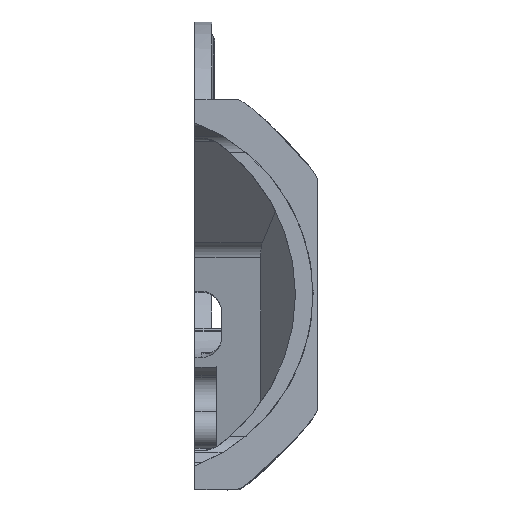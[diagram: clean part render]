
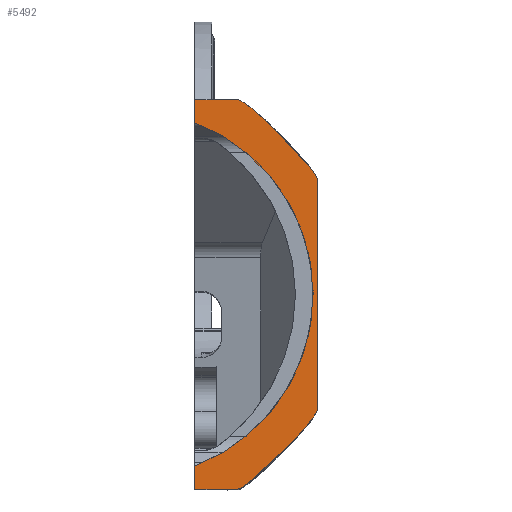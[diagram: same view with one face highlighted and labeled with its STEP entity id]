
A CAD part, top view. The second image highlights one B-rep face of the part: STEP entity #5492.
In plain terms, the highlighted planar face has unit normal (0, 0, 1).
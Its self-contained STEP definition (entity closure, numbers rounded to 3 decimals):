
#325=DIRECTION('',(0.,-1.,0.));
#326=VECTOR('',#325,6.84);
#327=CARTESIAN_POINT('',(145.5,-55.16,-240.5));
#328=LINE('',#327,#326);
#366=DIRECTION('',(0.,-1.,0.));
#367=VECTOR('',#366,6.84);
#368=CARTESIAN_POINT('',(145.5,54.,-240.5));
#369=LINE('',#368,#367);
#1547=CARTESIAN_POINT('',(126.,-4.,-240.5));
#1548=DIRECTION('',(0.,0.,1.));
#1549=DIRECTION('',(0.356,-0.934,0.));
#1550=AXIS2_PLACEMENT_3D('',#1547,#1548,#1549);
#1552=CARTESIAN_POINT('',(126.,-4.,-240.5));
#1553=DIRECTION('',(0.,0.,1.));
#1554=DIRECTION('',(1.,0.,0.));
#1555=AXIS2_PLACEMENT_3D('',#1552,#1553,#1554);
#1557=CARTESIAN_POINT('',(158.3,54.,-240.5));
#1558=CARTESIAN_POINT('',(158.519,54.,-240.5));
#1559=CARTESIAN_POINT('',(159.245,53.759,-240.5));
#1560=CARTESIAN_POINT('',(161.713,52.087,-240.5));
#1561=CARTESIAN_POINT('',(165.92,48.563,-240.5));
#1562=CARTESIAN_POINT('',(171.382,43.382,-240.5));
#1563=CARTESIAN_POINT('',(176.563,37.92,-240.5));
#1564=CARTESIAN_POINT('',(180.087,33.713,-240.5));
#1565=CARTESIAN_POINT('',(181.759,31.245,-240.5));
#1566=CARTESIAN_POINT('',(182.,30.519,-240.5));
#1567=CARTESIAN_POINT('',(182.,30.3,-240.5));
#1569=CARTESIAN_POINT('',(182.,-38.3,-240.5));
#1570=CARTESIAN_POINT('',(182.,-38.519,-240.5));
#1571=CARTESIAN_POINT('',(181.759,-39.245,-240.5));
#1572=CARTESIAN_POINT('',(180.087,-41.713,-240.5));
#1573=CARTESIAN_POINT('',(176.563,-45.92,-240.5));
#1574=CARTESIAN_POINT('',(171.382,-51.382,-240.5));
#1575=CARTESIAN_POINT('',(165.92,-56.563,-240.5));
#1576=CARTESIAN_POINT('',(161.713,-60.087,-240.5));
#1577=CARTESIAN_POINT('',(159.245,-61.759,-240.5));
#1578=CARTESIAN_POINT('',(158.519,-62.,-240.5));
#1579=CARTESIAN_POINT('',(158.3,-62.,-240.5));
#1581=DIRECTION('',(-1.,0.,0.));
#1582=VECTOR('',#1581,12.8);
#1583=CARTESIAN_POINT('',(158.3,-62.,-240.5));
#1584=LINE('',#1583,#1582);
#1585=DIRECTION('',(-1.,0.,0.));
#1586=VECTOR('',#1585,12.8);
#1587=CARTESIAN_POINT('',(158.3,54.,-240.5));
#1588=LINE('',#1587,#1586);
#1647=DIRECTION('',(0.,1.,0.));
#1648=VECTOR('',#1647,68.6);
#1649=CARTESIAN_POINT('',(182.,-38.3,-240.5));
#1650=LINE('',#1649,#1648);
#3546=CARTESIAN_POINT('',(145.5,-55.16,-240.5));
#3547=VERTEX_POINT('',#3546);
#3548=CARTESIAN_POINT('',(145.5,-62.,-240.5));
#3549=VERTEX_POINT('',#3548);
#3566=CARTESIAN_POINT('',(145.5,54.,-240.5));
#3567=VERTEX_POINT('',#3566);
#3568=CARTESIAN_POINT('',(145.5,47.16,-240.5));
#3569=VERTEX_POINT('',#3568);
#3805=CARTESIAN_POINT('',(180.75,-4.,-240.5));
#3806=VERTEX_POINT('',#3805);
#3811=CARTESIAN_POINT('',(158.3,54.,-240.5));
#3812=VERTEX_POINT('',#3811);
#3813=VERTEX_POINT('',#1567);
#3814=CARTESIAN_POINT('',(182.,-38.3,-240.5));
#3815=VERTEX_POINT('',#3814);
#3816=VERTEX_POINT('',#1579);
#5471=CARTESIAN_POINT('',(182.002,-4.,-240.5));
#5472=DIRECTION('',(0.,0.,1.));
#5473=DIRECTION('',(1.,0.,0.));
#5474=AXIS2_PLACEMENT_3D('',#5471,#5472,#5473);
#5475=PLANE('',#5474);
#5476=ORIENTED_EDGE('',*,*,#5458,.T.);
#5477=ORIENTED_EDGE('',*,*,#5456,.T.);
#5478=ORIENTED_EDGE('',*,*,#4339,.F.);
#5480=ORIENTED_EDGE('',*,*,#5479,.F.);
#5482=ORIENTED_EDGE('',*,*,#5481,.T.);
#5484=ORIENTED_EDGE('',*,*,#5483,.F.);
#5486=ORIENTED_EDGE('',*,*,#5485,.T.);
#5488=ORIENTED_EDGE('',*,*,#5487,.T.);
#5489=ORIENTED_EDGE('',*,*,#4319,.F.);
#5490=EDGE_LOOP('',(#5476,#5477,#5478,#5480,#5482,#5484,#5486,#5488,#5489));
#5491=FACE_OUTER_BOUND('',#5490,.F.);
#5492=ADVANCED_FACE('',(#5491),#5475,.T.);
#1551=CIRCLE('',#1550,54.75);
#1556=CIRCLE('',#1555,54.75);
#1568=B_SPLINE_CURVE_WITH_KNOTS('',3,(#1557,#1558,#1559,#1560,#1561,#1562,#1563,
#1564,#1565,#1566,#1567),.UNSPECIFIED.,.F.,.F.,(4,1,1,1,1,1,1,1,4),(0.,
0.125,0.25,0.375,0.5,
0.625,0.75,0.875,1.),.UNSPECIFIED.);
#1580=B_SPLINE_CURVE_WITH_KNOTS('',3,(#1569,#1570,#1571,#1572,#1573,#1574,#1575,
#1576,#1577,#1578,#1579),.UNSPECIFIED.,.F.,.F.,(4,1,1,1,1,1,1,1,4),(0.,
0.125,0.25,0.375,0.5,
0.625,0.75,0.875,1.),.UNSPECIFIED.);
#4319=EDGE_CURVE('',#3547,#3549,#328,.T.);
#4339=EDGE_CURVE('',#3567,#3569,#369,.T.);
#5456=EDGE_CURVE('',#3806,#3569,#1556,.T.);
#5458=EDGE_CURVE('',#3547,#3806,#1551,.T.);
#5479=EDGE_CURVE('',#3812,#3567,#1588,.T.);
#5481=EDGE_CURVE('',#3812,#3813,#1568,.T.);
#5483=EDGE_CURVE('',#3815,#3813,#1650,.T.);
#5485=EDGE_CURVE('',#3815,#3816,#1580,.T.);
#5487=EDGE_CURVE('',#3816,#3549,#1584,.T.);
